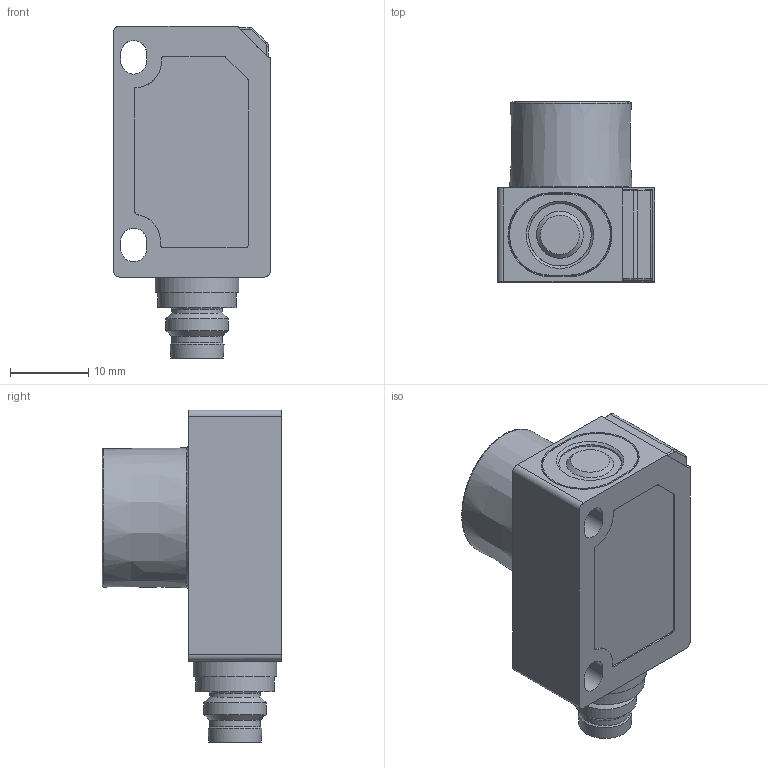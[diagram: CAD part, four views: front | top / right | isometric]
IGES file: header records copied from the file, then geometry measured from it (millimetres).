
Global section: file name: No Iges File Name specified; native system: Autodesk Inventor 2013; preprocessor: AutoDesk Inventor Iges Exporter R2013; author: Oliver Liedtke; date: 20120706.125046; units: millimetre
Bounding box: 20.11 x 23 x 42.45 mm (x, y, z)
Volume: 10200 mm3; surface area: 3796.5 mm2
Topology: 1 solids, 1 shells, 118 faces, 284 edges, 181 vertices
Faces by surface type: bspline 118
